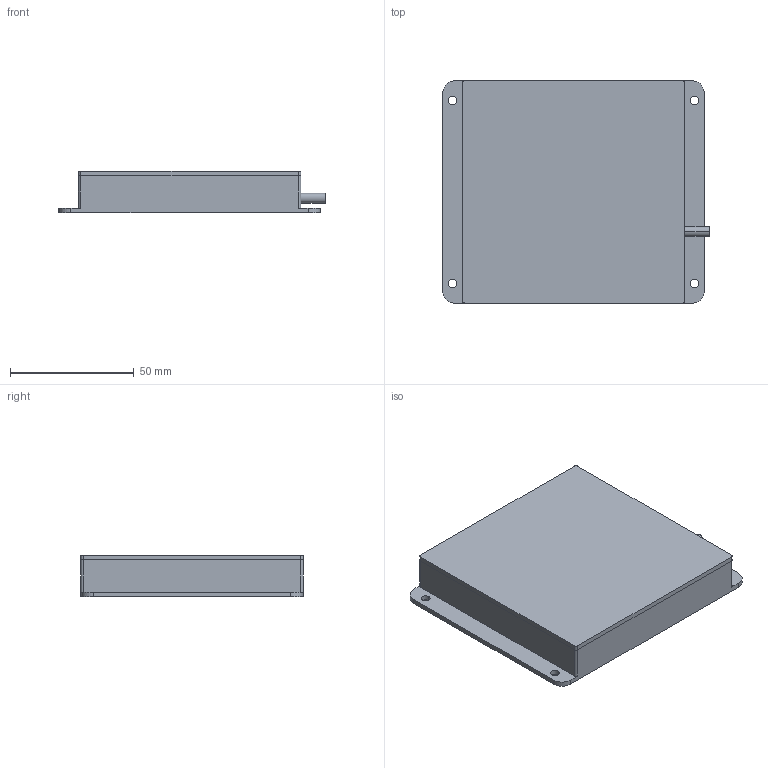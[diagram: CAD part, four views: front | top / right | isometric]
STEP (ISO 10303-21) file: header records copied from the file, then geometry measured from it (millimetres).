
FILE_DESCRIPTION (( 'STEP AP203' ), '1' );
FILE_NAME ('BO9090-W.STEP', '2021-10-25T06:14:00', ( 'Windows 蚚誧' ), ( 'Microsoft' ), 'SwSTEP 2.0', 'SolidWorks 2016', '' );
FILE_SCHEMA (( 'CONFIG_CONTROL_DESIGN' ));
Length unit declared in the file: millimetre
Products named in the file (1): BO9090-W
Bounding box: 108 x 90 x 17 mm (x, y, z)
Volume: 127772.9 mm3; surface area: 42153.1 mm2
Topology: 2 solids, 2 shells, 44 faces, 114 edges, 76 vertices
Faces by surface type: plane 22, cylinder 22
Entity records: 1453 total; most frequent: DIRECTION 248, CARTESIAN_POINT 235, ORIENTED_EDGE 228, EDGE_CURVE 114, AXIS2_PLACEMENT_3D 89, VERTEX_POINT 76, VECTOR 70, LINE 70
